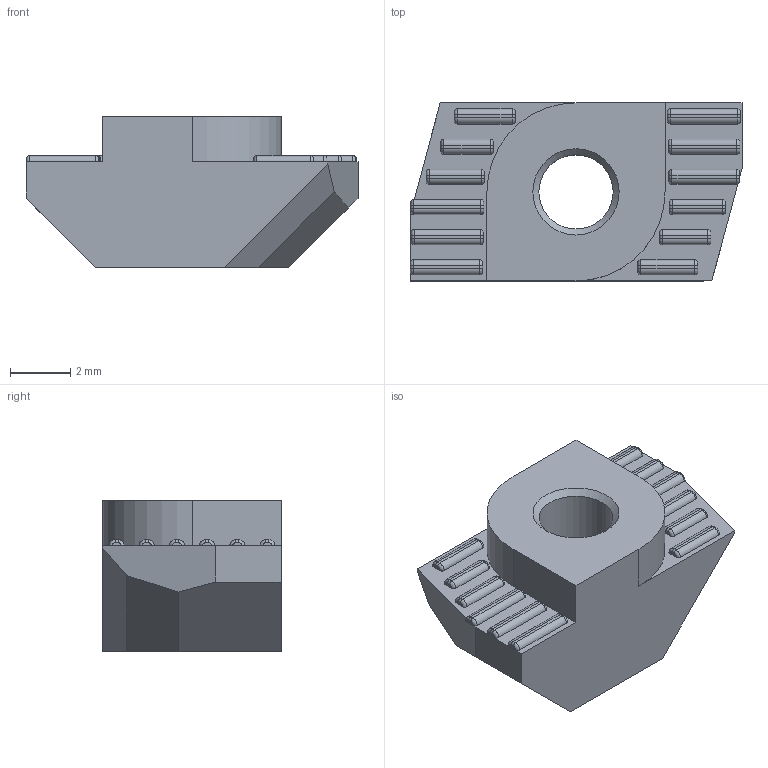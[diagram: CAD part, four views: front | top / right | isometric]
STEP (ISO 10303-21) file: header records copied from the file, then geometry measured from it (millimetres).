
FILE_DESCRIPTION((''),'2;1');
FILE_NAME('E:\catalogue and flyer\Profile catalogue 2015\Accessories JE info\Accessories-JE step file 31MAr16\JE-RN3-6.stp','2016-03-31T16:21:57',('h029'),(''),'Autodesk Inventor 11','Autodesk Inventor 11','');
FILE_SCHEMA(('AUTOMOTIVE_DESIGN { 1 0 10303 214 1 1 1 1 }'));
Length unit declared in the file: millimetre
Products named in the file (1): JE-RN3-6
Bounding box: 11 x 5.9 x 5 mm (x, y, z)
Volume: 206.1 mm3; surface area: 271.5 mm2
Topology: 1 solids, 1 shells, 156 faces, 380 edges, 236 vertices
Faces by surface type: plane 55, bspline 50, cylinder 50, cone 1
Entity records: 6550 total; most frequent: CARTESIAN_POINT 2901, DIRECTION 792, ORIENTED_EDGE 754, EDGE_CURVE 377, AXIS2_PLACEMENT_3D 308, VERTEX_POINT 235, CIRCLE 201, VECTOR 176
